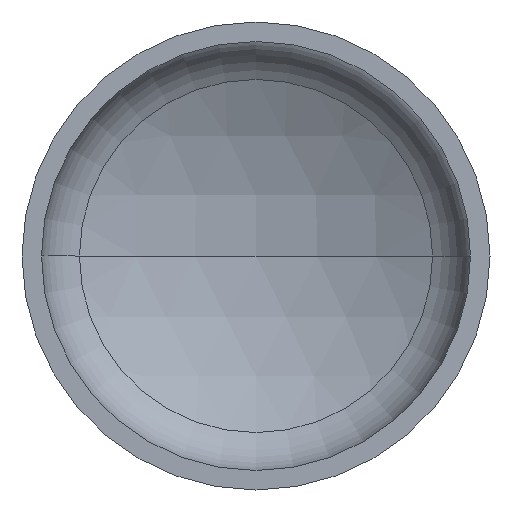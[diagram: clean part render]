
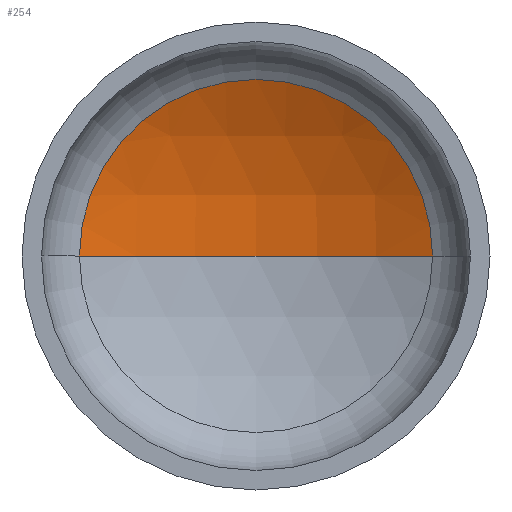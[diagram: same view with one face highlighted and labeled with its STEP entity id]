
A CAD part, front view. The second image highlights one B-rep face of the part: STEP entity #254.
In plain terms, the highlighted spherical face has radius 480 mm.
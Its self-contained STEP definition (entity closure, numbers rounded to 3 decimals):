
#1 = VERTEX_POINT ( 'NONE', #236 ) ;
#10 = ORIENTED_EDGE ( 'NONE', *, *, #51, .T. ) ;
#17 = DIRECTION ( 'NONE',  ( 0., 0., 1. ) ) ;
#40 = ORIENTED_EDGE ( 'NONE', *, *, #43, .T. ) ;
#43 = EDGE_CURVE ( 'NONE', #63, #313, #289, .T. ) ;
#48 = ORIENTED_EDGE ( 'NONE', *, *, #52, .F. ) ;
#51 = EDGE_CURVE ( 'NONE', #1, #63, #216, .T. ) ;
#52 = EDGE_CURVE ( 'NONE', #1, #313, #399, .T. ) ;
#61 = DIRECTION ( 'NONE',  ( -1., 0., 0. ) ) ;
#63 = VERTEX_POINT ( 'NONE', #339 ) ;
#78 = SPHERICAL_SURFACE ( 'NONE', #119, 480. ) ;
#119 = AXIS2_PLACEMENT_3D ( 'NONE', #181, #196, #389 ) ;
#172 = EDGE_LOOP ( 'NONE', ( #48, #10, #40 ) ) ;
#181 = CARTESIAN_POINT ( 'NONE',  ( 0., -267.133, 0. ) ) ;
#189 = DIRECTION ( 'NONE',  ( 1., 0., 0. ) ) ;
#196 = DIRECTION ( 'NONE',  ( 0., 0., -1. ) ) ;
#198 = CARTESIAN_POINT ( 'NONE',  ( 0., 156.124, 0. ) ) ;
#204 = DIRECTION ( 'NONE',  ( 0., -1., 0. ) ) ;
#216 = CIRCLE ( 'NONE', #245, 480. ) ;
#222 = AXIS2_PLACEMENT_3D ( 'NONE', #198, #204, #189 ) ;
#236 = CARTESIAN_POINT ( 'NONE',  ( 0., 212.867, 0. ) ) ;
#239 = CARTESIAN_POINT ( 'NONE',  ( 0., -267.133, 0. ) ) ;
#245 = AXIS2_PLACEMENT_3D ( 'NONE', #296, #267, #61 ) ;
#246 = CARTESIAN_POINT ( 'NONE',  ( -226.392, 156.124, 0. ) ) ;
#254 = ADVANCED_FACE ( 'NONE', ( #326 ), #78, .F. ) ;
#261 = AXIS2_PLACEMENT_3D ( 'NONE', #239, #17, #357 ) ;
#267 = DIRECTION ( 'NONE',  ( 0., 0., -1. ) ) ;
#289 = CIRCLE ( 'NONE', #222, 226.392 ) ;
#296 = CARTESIAN_POINT ( 'NONE',  ( 0., -267.133, 0. ) ) ;
#313 = VERTEX_POINT ( 'NONE', #246 ) ;
#326 = FACE_OUTER_BOUND ( 'NONE', #172, .T. ) ;
#339 = CARTESIAN_POINT ( 'NONE',  ( 226.392, 156.124, 0. ) ) ;
#357 = DIRECTION ( 'NONE',  ( 1., 0., 0. ) ) ;
#389 = DIRECTION ( 'NONE',  ( -1., 0., 0. ) ) ;
#399 = CIRCLE ( 'NONE', #261, 480. ) ;
